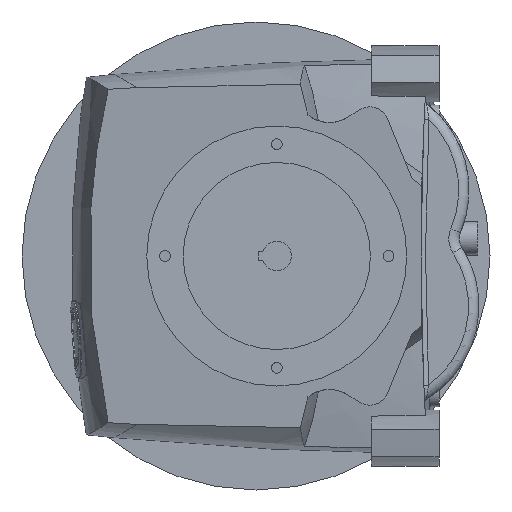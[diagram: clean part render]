
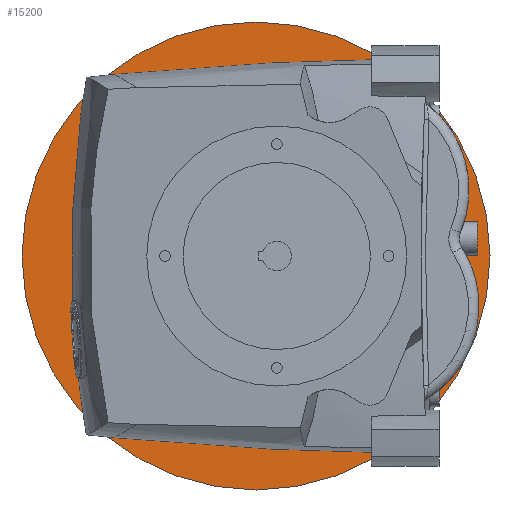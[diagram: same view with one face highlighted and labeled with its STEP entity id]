
A CAD part, left-side view. The second image highlights one B-rep face of the part: STEP entity #15200.
In plain terms, the highlighted planar face has unit normal (-1, 0, 0).
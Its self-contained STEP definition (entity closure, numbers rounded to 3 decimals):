
#1630=CARTESIAN_POINT('',(-9.614,201.993,121.011));
#1642=CARTESIAN_POINT('',(-9.614,201.993,251.717));
#1643=CARTESIAN_POINT('',(-9.614,199.553,258.423));
#1644=CARTESIAN_POINT('',(-9.614,193.943,271.469));
#1645=CARTESIAN_POINT('',(-9.614,186.914,283.802));
#1646=CARTESIAN_POINT('',(-9.614,183.029,289.781));
#1705=CARTESIAN_POINT('',(-9.614,183.029,82.948));
#1706=CARTESIAN_POINT('',(-9.614,186.915,88.927));
#1707=CARTESIAN_POINT('',(-9.614,193.944,101.261));
#1708=CARTESIAN_POINT('',(-9.614,199.553,114.306));
#1709=CARTESIAN_POINT('',(-9.614,201.993,121.011));
#4249=CARTESIAN_POINT('',(-9.614,91.934,186.364));
#4250=DIRECTION('',(-1.,0.,0.));
#4251=DIRECTION('',(0.,0.571,-0.821));
#4252=AXIS2_PLACEMENT_3D('',#4249,#4250,#4251);
#4254=CARTESIAN_POINT('',(-9.614,91.934,186.364));
#4255=DIRECTION('',(1.,0.,0.));
#4256=DIRECTION('',(0.,0.571,0.821));
#4257=AXIS2_PLACEMENT_3D('',#4254,#4255,#4256);
#4259=CARTESIAN_POINT('',(-9.614,91.934,186.364));
#4260=DIRECTION('',(1.,0.,0.));
#4261=DIRECTION('',(0.,1.,0.));
#4262=AXIS2_PLACEMENT_3D('',#4259,#4260,#4261);
#4264=CARTESIAN_POINT('',(-9.614,91.934,186.364));
#4265=DIRECTION('',(-1.,0.,0.));
#4266=DIRECTION('',(0.,1.,0.));
#4267=AXIS2_PLACEMENT_3D('',#4264,#4265,#4266);
#4269=CARTESIAN_POINT('',(-9.614,233.355,44.943));
#4270=DIRECTION('',(1.,0.,0.));
#4271=DIRECTION('',(0.,0.,-1.));
#4272=AXIS2_PLACEMENT_3D('',#4269,#4270,#4271);
#4274=CARTESIAN_POINT('',(-9.614,233.355,44.943));
#4275=DIRECTION('',(1.,0.,0.));
#4276=DIRECTION('',(0.,0.,1.));
#4277=AXIS2_PLACEMENT_3D('',#4274,#4275,#4276);
#4279=CARTESIAN_POINT('',(-9.614,233.355,327.786));
#4280=DIRECTION('',(1.,0.,0.));
#4281=DIRECTION('',(0.,0.,-1.));
#4282=AXIS2_PLACEMENT_3D('',#4279,#4280,#4281);
#4284=CARTESIAN_POINT('',(-9.614,233.355,327.786));
#4285=DIRECTION('',(1.,0.,0.));
#4286=DIRECTION('',(0.,0.,1.));
#4287=AXIS2_PLACEMENT_3D('',#4284,#4285,#4286);
#4289=CARTESIAN_POINT('',(-9.614,-49.487,
327.786));
#4290=DIRECTION('',(1.,0.,0.));
#4291=DIRECTION('',(0.,0.,-1.));
#4292=AXIS2_PLACEMENT_3D('',#4289,#4290,#4291);
#4294=CARTESIAN_POINT('',(-9.614,-49.487,
327.786));
#4295=DIRECTION('',(1.,0.,0.));
#4296=DIRECTION('',(0.,0.,1.));
#4297=AXIS2_PLACEMENT_3D('',#4294,#4295,#4296);
#4299=CARTESIAN_POINT('',(-9.614,-49.487,
44.943));
#4300=DIRECTION('',(1.,0.,0.));
#4301=DIRECTION('',(0.,0.,-1.));
#4302=AXIS2_PLACEMENT_3D('',#4299,#4300,#4301);
#4304=CARTESIAN_POINT('',(-9.614,-49.487,
44.943));
#4305=DIRECTION('',(1.,0.,0.));
#4306=DIRECTION('',(0.,0.,1.));
#4307=AXIS2_PLACEMENT_3D('',#4304,#4305,#4306);
#4309=CARTESIAN_POINT('',(-9.614,91.934,186.364));
#4310=DIRECTION('',(-1.,0.,0.));
#4311=DIRECTION('',(0.,1.,0.));
#4312=AXIS2_PLACEMENT_3D('',#4309,#4310,#4311);
#4322=CARTESIAN_POINT('',(-9.614,91.934,186.364));
#4323=DIRECTION('',(1.,0.,0.));
#4324=DIRECTION('',(0.,1.,0.));
#4325=AXIS2_PLACEMENT_3D('',#4322,#4323,#4324);
#4659=CARTESIAN_POINT('',(-9.614,164.985,81.257));
#4661=CARTESIAN_POINT('',(-9.614,164.985,81.257));
#4662=CARTESIAN_POINT('',(-9.614,167.993,81.528));
#4663=CARTESIAN_POINT('',(-9.614,174.008,82.082));
#4664=CARTESIAN_POINT('',(-9.614,180.022,82.656));
#4665=CARTESIAN_POINT('',(-9.614,183.029,82.948));
#5538=CARTESIAN_POINT('',(-9.614,183.029,289.781));
#5539=CARTESIAN_POINT('',(-9.614,180.022,290.073));
#5540=CARTESIAN_POINT('',(-9.614,174.008,290.647));
#5541=CARTESIAN_POINT('',(-9.614,167.993,291.2));
#5542=CARTESIAN_POINT('',(-9.614,164.985,291.472));
#8029=CARTESIAN_POINT('',(-9.614,219.934,186.364));
#8030=VERTEX_POINT('',#8029);
#8031=CARTESIAN_POINT('',(-9.614,316.934,186.364));
#8033=VERTEX_POINT('',#8031);
#8047=CARTESIAN_POINT('',(-9.614,-36.066,
186.364));
#8048=VERTEX_POINT('',#8047);
#8049=CARTESIAN_POINT('',(-9.614,-133.066,
186.364));
#8051=VERTEX_POINT('',#8049);
#8075=VERTEX_POINT('',#1630);
#8077=VERTEX_POINT('',#1705);
#8078=VERTEX_POINT('',#1642);
#8079=VERTEX_POINT('',#1646);
#8081=VERTEX_POINT('',#5542);
#8113=VERTEX_POINT('',#4659);
#8128=CARTESIAN_POINT('',(-9.614,233.355,35.943));
#8129=CARTESIAN_POINT('',(-9.614,233.355,53.943));
#8130=VERTEX_POINT('',#8128);
#8131=VERTEX_POINT('',#8129);
#8132=CARTESIAN_POINT('',(-9.614,233.355,318.786));
#8133=CARTESIAN_POINT('',(-9.614,233.355,336.786));
#8134=VERTEX_POINT('',#8132);
#8135=VERTEX_POINT('',#8133);
#8136=CARTESIAN_POINT('',(-9.614,-49.487,
318.786));
#8137=CARTESIAN_POINT('',(-9.614,-49.487,
336.786));
#8138=VERTEX_POINT('',#8136);
#8139=VERTEX_POINT('',#8137);
#8140=CARTESIAN_POINT('',(-9.614,-49.487,
35.943));
#8141=CARTESIAN_POINT('',(-9.614,-49.487,
53.943));
#8142=VERTEX_POINT('',#8140);
#8143=VERTEX_POINT('',#8141);
#15153=CARTESIAN_POINT('',(-9.614,91.934,
186.364));
#15154=DIRECTION('',(-1.,0.,0.));
#15155=DIRECTION('',(0.,-1.,0.));
#15156=AXIS2_PLACEMENT_3D('',#15153,#15154,#15155);
#15157=PLANE('',#15156);
#15159=ORIENTED_EDGE('',*,*,#15158,.F.);
#15161=ORIENTED_EDGE('',*,*,#15160,.T.);
#15162=EDGE_LOOP('',(#15159,#15161));
#15163=FACE_OUTER_BOUND('',#15162,.F.);
#15164=ORIENTED_EDGE('',*,*,#10651,.F.);
#15166=ORIENTED_EDGE('',*,*,#15165,.F.);
#15167=ORIENTED_EDGE('',*,*,#15144,.T.);
#15168=ORIENTED_EDGE('',*,*,#10494,.F.);
#15170=ORIENTED_EDGE('',*,*,#15169,.F.);
#15171=ORIENTED_EDGE('',*,*,#10644,.F.);
#15172=ORIENTED_EDGE('',*,*,#10501,.F.);
#15173=ORIENTED_EDGE('',*,*,#15139,.T.);
#15174=EDGE_LOOP('',(#15164,#15166,#15167,#15168,#15170,#15171,#15172,#15173));
#15175=FACE_BOUND('',#15174,.F.);
#15177=ORIENTED_EDGE('',*,*,#15176,.F.);
#15179=ORIENTED_EDGE('',*,*,#15178,.F.);
#15180=EDGE_LOOP('',(#15177,#15179));
#15181=FACE_BOUND('',#15180,.F.);
#15183=ORIENTED_EDGE('',*,*,#15182,.F.);
#15185=ORIENTED_EDGE('',*,*,#15184,.F.);
#15186=EDGE_LOOP('',(#15183,#15185));
#15187=FACE_BOUND('',#15186,.F.);
#15189=ORIENTED_EDGE('',*,*,#15188,.F.);
#15191=ORIENTED_EDGE('',*,*,#15190,.F.);
#15192=EDGE_LOOP('',(#15189,#15191));
#15193=FACE_BOUND('',#15192,.F.);
#15195=ORIENTED_EDGE('',*,*,#15194,.F.);
#15197=ORIENTED_EDGE('',*,*,#15196,.F.);
#15198=EDGE_LOOP('',(#15195,#15197));
#15199=FACE_BOUND('',#15198,.F.);
#15200=ADVANCED_FACE('',(#15163,#15175,#15181,#15187,#15193,#15199),#15157,.T.);
#1647=B_SPLINE_CURVE_WITH_KNOTS('',3,(#1642,#1643,#1644,#1645,#1646),
.UNSPECIFIED.,.F.,.F.,(4,1,4),(0.,0.5,1.),.UNSPECIFIED.);
#1710=B_SPLINE_CURVE_WITH_KNOTS('',3,(#1705,#1706,#1707,#1708,#1709),
.UNSPECIFIED.,.F.,.F.,(4,1,4),(0.,0.5,1.),.UNSPECIFIED.);
#4253=CIRCLE('',#4252,128.);
#4258=CIRCLE('',#4257,128.);
#4263=CIRCLE('',#4262,128.);
#4268=CIRCLE('',#4267,128.);
#4273=CIRCLE('',#4272,9.);
#4278=CIRCLE('',#4277,9.);
#4283=CIRCLE('',#4282,9.);
#4288=CIRCLE('',#4287,9.);
#4293=CIRCLE('',#4292,9.);
#4298=CIRCLE('',#4297,9.);
#4303=CIRCLE('',#4302,9.);
#4308=CIRCLE('',#4307,9.);
#4313=CIRCLE('',#4312,225.);
#4326=CIRCLE('',#4325,225.);
#4666=B_SPLINE_CURVE_WITH_KNOTS('',3,(#4661,#4662,#4663,#4664,#4665),
.UNSPECIFIED.,.F.,.F.,(4,1,4),(0.,0.5,1.),.UNSPECIFIED.);
#5543=B_SPLINE_CURVE_WITH_KNOTS('',3,(#5538,#5539,#5540,#5541,#5542),
.UNSPECIFIED.,.F.,.F.,(4,1,4),(0.,0.5,1.),.UNSPECIFIED.);
#10494=EDGE_CURVE('',#8081,#8048,#4258,.T.);
#10501=EDGE_CURVE('',#8030,#8078,#4263,.T.);
#10644=EDGE_CURVE('',#8078,#8079,#1647,.T.);
#10651=EDGE_CURVE('',#8077,#8075,#1710,.T.);
#15139=EDGE_CURVE('',#8030,#8075,#4268,.T.);
#15144=EDGE_CURVE('',#8113,#8048,#4253,.T.);
#15158=EDGE_CURVE('',#8033,#8051,#4313,.T.);
#15160=EDGE_CURVE('',#8033,#8051,#4326,.T.);
#15165=EDGE_CURVE('',#8113,#8077,#4666,.T.);
#15169=EDGE_CURVE('',#8079,#8081,#5543,.T.);
#15176=EDGE_CURVE('',#8130,#8131,#4273,.T.);
#15178=EDGE_CURVE('',#8131,#8130,#4278,.T.);
#15182=EDGE_CURVE('',#8134,#8135,#4283,.T.);
#15184=EDGE_CURVE('',#8135,#8134,#4288,.T.);
#15188=EDGE_CURVE('',#8138,#8139,#4293,.T.);
#15190=EDGE_CURVE('',#8139,#8138,#4298,.T.);
#15194=EDGE_CURVE('',#8142,#8143,#4303,.T.);
#15196=EDGE_CURVE('',#8143,#8142,#4308,.T.);
